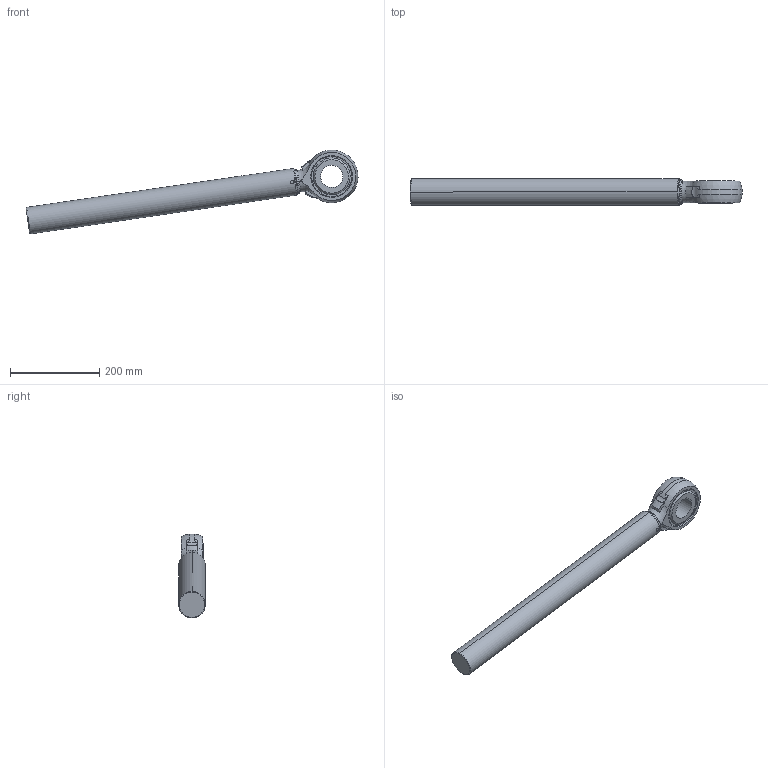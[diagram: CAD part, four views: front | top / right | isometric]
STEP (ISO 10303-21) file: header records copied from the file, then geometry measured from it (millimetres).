
FILE_DESCRIPTION (( 'STEP AP214' ), '1' );
FILE_NAME ('IRB6760_All_OC_00_ROD_CAD.step', '2025-09-30T13:07:29', ( '' ), ( '' ), 'SwSTEP 2.0', 'SolidWorks 2024', '' );
FILE_SCHEMA (( 'AUTOMOTIVE_DESIGN' ));
Length unit declared in the file: millimetre
Products named in the file (1): IRB6760_All_OC_00_ROD_CAD
Bounding box: 744 x 60 x 187.78 mm (x, y, z)
Volume: 2184105.4 mm3; surface area: 162872 mm2
Topology: 1 solids, 1 shells, 62 faces, 144 edges, 89 vertices
Faces by surface type: cylinder 21, plane 16, torus 12, cone 11, sphere 2
Entity records: 2884 total; most frequent: CARTESIAN_POINT 778, DIRECTION 307, ORIENTED_EDGE 288, EDGE_CURVE 144, AXIS2_PLACEMENT_3D 140, VERTEX_POINT 89, CIRCLE 77, EDGE_LOOP 69
